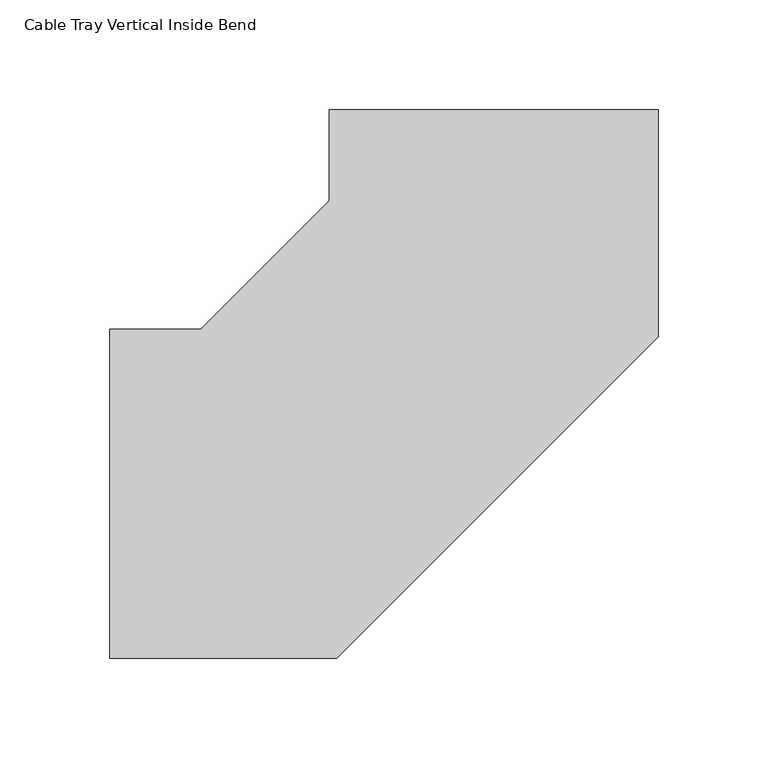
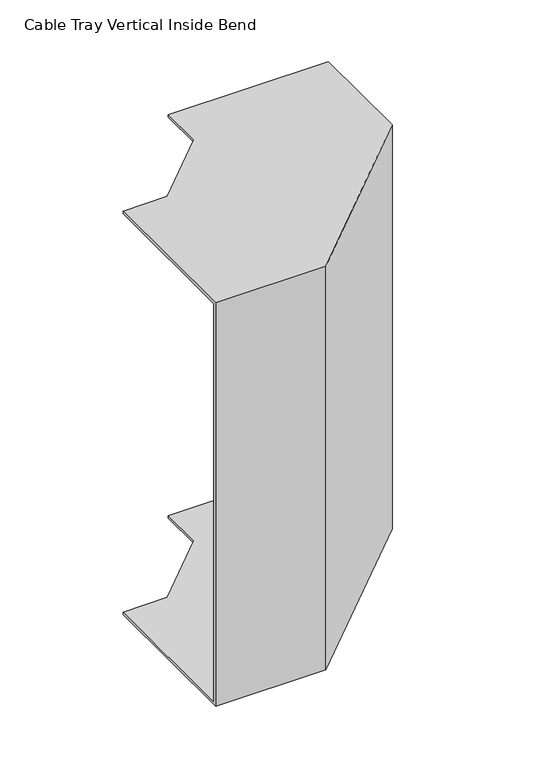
"""IFC4 building model written with IfcOpenShell, lengths in millimetres: cable carrier fitting geometry, Cable Tray Vertical Inside Bend : ELEC_ELV_TKG_N2402."""

from ifc_helpers import new_model, si_unit, origin, place, context, project, spatial, faceted_brep, source, transform, mapped, element, save


def cable_tray_vertical_inside_bend_12245cc8(model_context):
    return source(origin(), model_context, "Body", "Brep", [
        faceted_brep([(-175.0, 75.0, 200.0), (-175.0, 75.0, 197.46), (-175.0, -72.46, 197.46), (-175.0, -72.46, -197.46), (-175.0, 75.0, -197.46), (-175.0, 75.0, -200.0), (-175.0, -75.0, -200.0), (-175.0, -75.0, 200.0), (-75.0, 175.0, 200.0), (75.0, 175.0, 200.0), (75.0, 175.0, -200.0), (-75.0, 175.0, -200.0), (-75.0, 175.0, -197.46), (72.46, 175.0, -197.46), (72.46, 175.0, 197.46), (-75.0, 175.0, 197.46), (-133.5786438, 75.0, 200.0), (-133.5786438, 75.0, 197.46), (-75.0, 133.5786438, 197.46), (72.46, 72.4987119, 197.46), (-72.4987119, -72.46, 197.46), (-72.4987119, -72.46, -197.46), (72.46, 72.4987119, -197.46), (-75.0, 133.5786438, -197.46), (-133.5786438, 75.0, -197.46), (-133.5786438, 75.0, -200.0), (-75.0, 133.5786438, -200.0), (75.0, 71.4466094, -200.0), (-71.4466094, -75.0, -200.0), (-71.4466094, -75.0, 200.0), (75.0, 71.4466094, 200.0), (-75.0, 133.5786438, 200.0)], [[[0, 1, 2, 3, 4, 5, 6, 7]], [[8, 9, 10, 11, 12, 13, 14, 15]], [[1, 0, 16, 17]], [[2, 1, 17, 18, 15, 14, 19, 20]], [[3, 2, 20, 21]], [[4, 3, 21, 22, 13, 12, 23, 24]], [[5, 4, 24, 25]], [[6, 5, 25, 26, 11, 10, 27, 28]], [[7, 6, 28, 29]], [[0, 7, 29, 30, 9, 8, 31, 16]], [[17, 16, 31, 18]], [[21, 20, 19, 22]], [[25, 24, 23, 26]], [[29, 28, 27, 30]], [[18, 31, 8, 15]], [[22, 19, 14, 13]], [[26, 23, 12, 11]], [[30, 27, 10, 9]]]),
    ])


if __name__ == "__main__":
    model = new_model("IFC4")
    model_context = context("Model", 3, world=origin())
    ifc_project = project(units=[si_unit("LENGTHUNIT", "METRE", prefix="MILLI")], contexts=[model_context])
    site = spatial("IfcSite", under=ifc_project)
    building = spatial("IfcBuilding", under=site)
    placement = place(None, origin())
    cable_tray_vertical_inside_bend_shape = cable_tray_vertical_inside_bend_12245cc8(model_context)
    element("IfcCableCarrierFitting", 1, ObjectType="Cable Tray Vertical Inside Bend : ELEC_ELV_TKG_N2402", at=placement, inside=building, context=model_context, shape_type="MappedRepresentation", body=[
        mapped(cable_tray_vertical_inside_bend_shape, transform((0.0, 0.0, 0.0), x_axis=(1.0, 0.0, 0.0), y_axis=(0.0, 1.0, 0.0), z_axis=(0.0, 0.0, 1.0))),
    ])
    save(model, "model.ifc")
